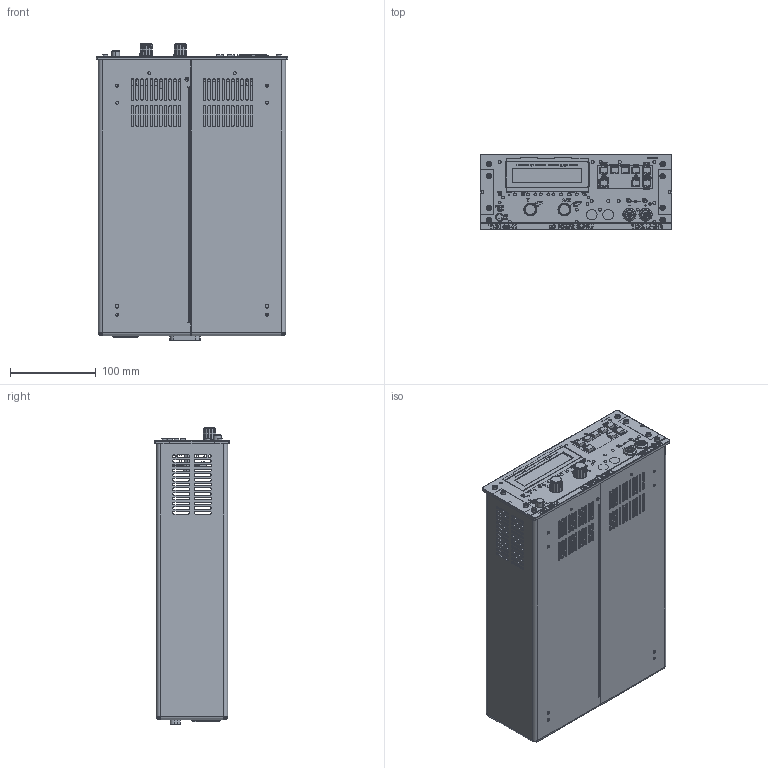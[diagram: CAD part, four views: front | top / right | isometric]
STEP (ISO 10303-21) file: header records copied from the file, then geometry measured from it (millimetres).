
FILE_DESCRIPTION (( 'STEP AP214' ), '1' );
FILE_NAME ('TOE 8941_3d.STEP', '2017-04-05T12:41:35', ( 'KL_' ), ( '' ), 'SwSTEP 2.0', 'SolidWorks 2015', '' );
FILE_SCHEMA (( 'AUTOMOTIVE_DESIGN' ));
Length unit declared in the file: millimetre
Products named in the file (1): TOE 8941_3d
Bounding box: 224 x 88 x 346.47 mm (x, y, z)
Surface area: 527031.7 mm2 (no closed solid volume)
Topology: 0 solids, 350 shells, 1851 faces, 8365 edges, 6751 vertices
Faces by surface type: plane 1086, cylinder 586, cone 102, bspline 42, torus 33, sphere 2
Entity records: 117412 total; most frequent: CARTESIAN_POINT 30478, DIRECTION 13141, ORIENTED_EDGE 11600, EDGE_CURVE 8345, VERTEX_POINT 6749, VECTOR 5251, LINE 5251, AXIS2_PLACEMENT_3D 3945
